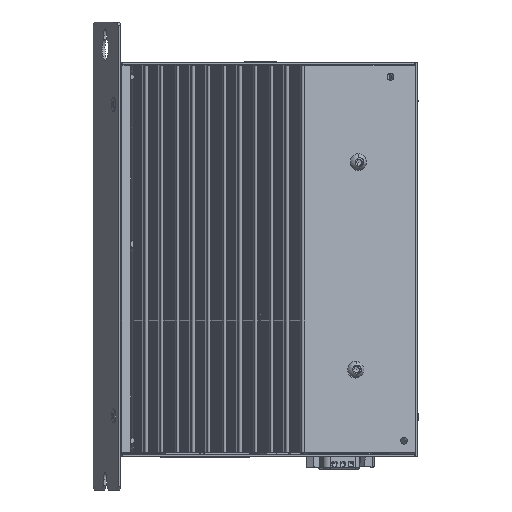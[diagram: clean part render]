
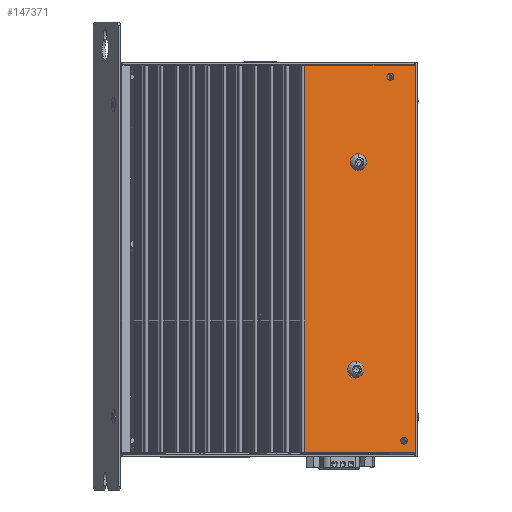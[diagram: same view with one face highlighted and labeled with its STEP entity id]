
A CAD part, left-side view. The second image highlights one B-rep face of the part: STEP entity #147371.
In plain terms, the highlighted planar face has unit normal (-0.966, -0.259, 0).
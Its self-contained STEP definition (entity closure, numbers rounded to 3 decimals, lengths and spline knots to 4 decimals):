
#1588=FACE_BOUND('',#19495,.T.);
#1589=FACE_BOUND('',#19496,.T.);
#1590=FACE_BOUND('',#19497,.T.);
#1591=FACE_BOUND('',#19498,.T.);
#4541=PLANE('',#156310);
#11257=FACE_OUTER_BOUND('',#19494,.T.);
#19494=EDGE_LOOP('',(#110880,#110881,#110882,#110883));
#19495=EDGE_LOOP('',(#110884));
#19496=EDGE_LOOP('',(#110885));
#19497=EDGE_LOOP('',(#110886));
#19498=EDGE_LOOP('',(#110887));
#31140=LINE('',#219593,#47974);
#31141=LINE('',#219595,#47975);
#31142=LINE('',#219597,#47976);
#31143=LINE('',#219598,#47977);
#47974=VECTOR('',#178305,0.0394);
#47975=VECTOR('',#178306,0.0394);
#47976=VECTOR('',#178307,0.0394);
#47977=VECTOR('',#178308,0.0394);
#59082=CIRCLE('',#156311,0.0728);
#59083=CIRCLE('',#156312,0.0728);
#59084=CIRCLE('',#156313,0.0591);
#59085=CIRCLE('',#156314,0.0591);
#66276=VERTEX_POINT('',#219591);
#66277=VERTEX_POINT('',#219592);
#66278=VERTEX_POINT('',#219594);
#66279=VERTEX_POINT('',#219596);
#66280=VERTEX_POINT('',#219599);
#66281=VERTEX_POINT('',#219601);
#66282=VERTEX_POINT('',#219603);
#66283=VERTEX_POINT('',#219605);
#82366=EDGE_CURVE('',#66276,#66277,#31140,.T.);
#82367=EDGE_CURVE('',#66278,#66276,#31141,.T.);
#82368=EDGE_CURVE('',#66278,#66279,#31142,.T.);
#82369=EDGE_CURVE('',#66279,#66277,#31143,.T.);
#82370=EDGE_CURVE('',#66280,#66280,#59082,.T.);
#82371=EDGE_CURVE('',#66281,#66281,#59083,.T.);
#82372=EDGE_CURVE('',#66282,#66282,#59084,.T.);
#82373=EDGE_CURVE('',#66283,#66283,#59085,.T.);
#110880=ORIENTED_EDGE('',*,*,#82366,.F.);
#110881=ORIENTED_EDGE('',*,*,#82367,.F.);
#110882=ORIENTED_EDGE('',*,*,#82368,.T.);
#110883=ORIENTED_EDGE('',*,*,#82369,.T.);
#110884=ORIENTED_EDGE('',*,*,#82370,.F.);
#110885=ORIENTED_EDGE('',*,*,#82371,.F.);
#110886=ORIENTED_EDGE('',*,*,#82372,.F.);
#110887=ORIENTED_EDGE('',*,*,#82373,.F.);
#147371=ADVANCED_FACE('',(#11257,#1588,#1589,#1590,#1591),#4541,.T.);
#156310=AXIS2_PLACEMENT_3D('',#219590,#178303,#178304);
#156311=AXIS2_PLACEMENT_3D('',#219600,#178309,#178310);
#156312=AXIS2_PLACEMENT_3D('',#219602,#178311,#178312);
#156313=AXIS2_PLACEMENT_3D('',#219604,#178313,#178314);
#156314=AXIS2_PLACEMENT_3D('',#219606,#178315,#178316);
#178303=DIRECTION('center_axis',(-0.966,-0.259,
0.));
#178304=DIRECTION('ref_axis',(-0.259,0.966,0.));
#178305=DIRECTION('',(0.259,-0.966,0.));
#178306=DIRECTION('',(0.,0.,1.));
#178307=DIRECTION('',(0.259,-0.966,0.));
#178308=DIRECTION('',(0.,0.,1.));
#178309=DIRECTION('center_axis',(-0.966,-0.259,
0.));
#178310=DIRECTION('ref_axis',(0.,0.,
-1.));
#178311=DIRECTION('center_axis',(-0.966,-0.259,
0.));
#178312=DIRECTION('ref_axis',(0.,0.,
-1.));
#178313=DIRECTION('center_axis',(-0.966,-0.259,
0.));
#178314=DIRECTION('ref_axis',(0.,0.,
-1.));
#178315=DIRECTION('center_axis',(-0.966,-0.259,
0.));
#178316=DIRECTION('ref_axis',(0.,0.,
-1.));
#219590=CARTESIAN_POINT('Origin',(-1.1205,0.7717,-0.2216));
#219591=CARTESIAN_POINT('',(-1.1205,0.7717,6.3532));
#219592=CARTESIAN_POINT('',(-0.5726,-1.2728,6.3532));
#219593=CARTESIAN_POINT('',(-1.1205,0.7717,6.3532));
#219594=CARTESIAN_POINT('',(-1.1205,0.7717,-0.2216));
#219595=CARTESIAN_POINT('',(-1.1205,0.7717,-0.2216));
#219596=CARTESIAN_POINT('',(-0.5726,-1.2728,-0.2216));
#219597=CARTESIAN_POINT('',(-1.1205,0.7717,-0.2216));
#219598=CARTESIAN_POINT('',(-0.5726,-1.2728,-0.2216));
#219599=CARTESIAN_POINT('',(-0.8325,-0.3031,4.6072));
#219600=CARTESIAN_POINT('Origin',(-0.8325,-0.3031,
4.68));
#219601=CARTESIAN_POINT('',(-0.8325,-0.3031,1.1032));
#219602=CARTESIAN_POINT('Origin',(-0.8325,-0.3031,
1.1761));
#219603=CARTESIAN_POINT('',(-0.6236,-1.0827,-0.0838));
#219604=CARTESIAN_POINT('Origin',(-0.6236,-1.0827,
-0.0247));
#219605=CARTESIAN_POINT('',(-0.6847,-0.8545,6.0973));
#219606=CARTESIAN_POINT('Origin',(-0.6847,-0.8545,
6.1564));
